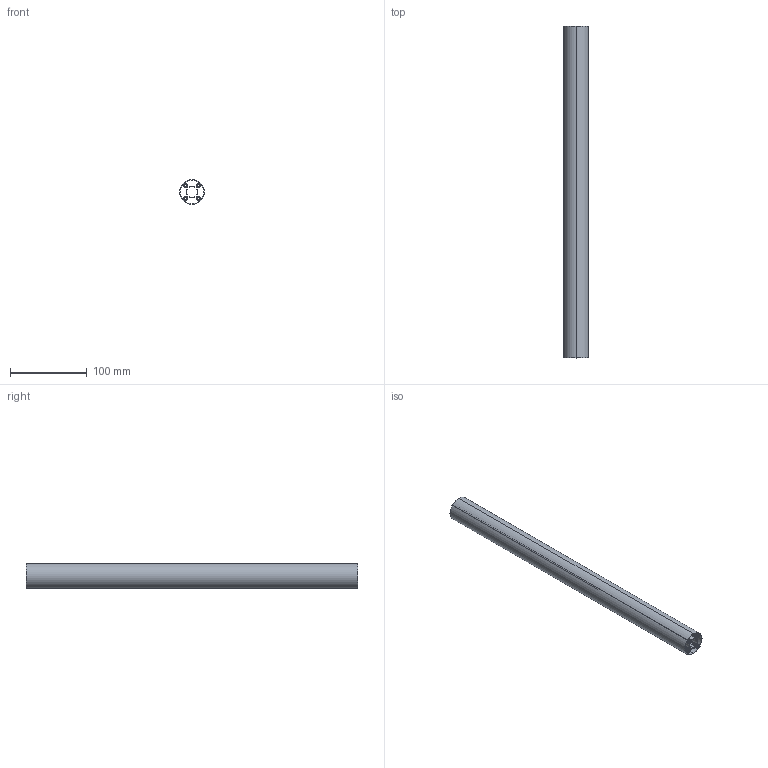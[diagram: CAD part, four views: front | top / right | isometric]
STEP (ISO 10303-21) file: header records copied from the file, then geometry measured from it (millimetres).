
FILE_DESCRIPTION (( 'STEP AP203' ), '1' );
FILE_NAME ('4103-0032-0432.STEP', '2022-09-13T20:57:02', ( '' ), ( '' ), 'SwSTEP 2.0', 'SolidWorks 2016', '' );
FILE_SCHEMA (( 'CONFIG_CONTROL_DESIGN' ));
Length unit declared in the file: millimetre
Products named in the file (1): 4103-0032-0432
Bounding box: 31.95 x 432 x 31.95 mm (x, y, z)
Volume: 72980 mm3; surface area: 171726.3 mm2
Topology: 1 solids, 1 shells, 781 faces, 2333 edges, 1554 vertices
Faces by surface type: cylinder 711, plane 34, cone 20, bspline 16
Entity records: 50002 total; most frequent: CARTESIAN_POINT 32717, ORIENTED_EDGE 4666, DIRECTION 2715, EDGE_CURVE 2333, VERTEX_POINT 1554, AXIS2_PLACEMENT_3D 960, EDGE_LOOP 799, LINE 795
